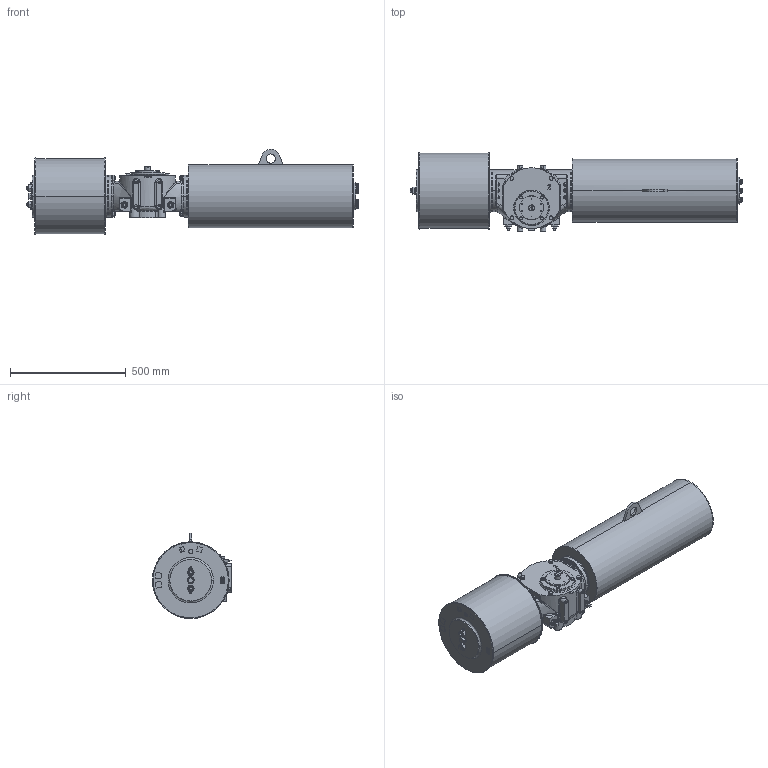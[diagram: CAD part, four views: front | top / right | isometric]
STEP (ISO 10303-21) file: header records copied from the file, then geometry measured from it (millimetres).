
FILE_DESCRIPTION (( 'STEP AP203' ), '1' );
FILE_NAME ('VTS2-300-SR-FC.STEP', '2022-10-24T07:28:02', ( '' ), ( '' ), 'SwSTEP 2.0', 'SolidWorks 2020', '' );
FILE_SCHEMA (( 'CONFIG_CONTROL_DESIGN' ));
Length unit declared in the file: millimetre
Products named in the file (1): VTS2-300-SR-FC
Bounding box: 1433.78 x 343 x 368.5 mm (x, y, z)
Volume: 79164139.3 mm3; surface area: 1776752.2 mm2
Topology: 4 solids, 6 shells, 1819 faces, 4617 edges, 2902 vertices
Faces by surface type: plane 705, cylinder 563, cone 390, bspline 161
Entity records: 70531 total; most frequent: CARTESIAN_POINT 27888, ORIENTED_EDGE 9134, DIRECTION 8728, EDGE_CURVE 4567, AXIS2_PLACEMENT_3D 3468, VERTEX_POINT 2902, EDGE_LOOP 2023, FACE_OUTER_BOUND 1819
